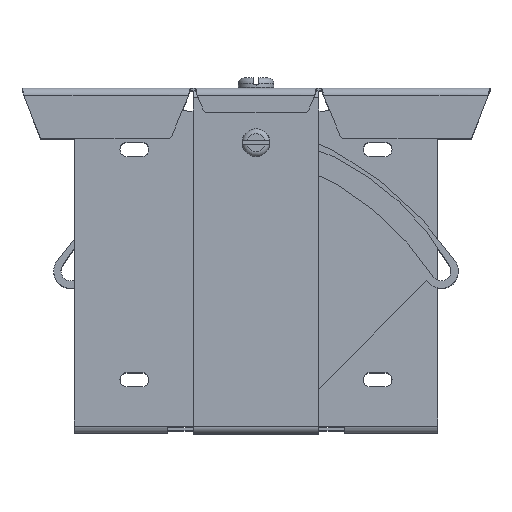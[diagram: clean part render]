
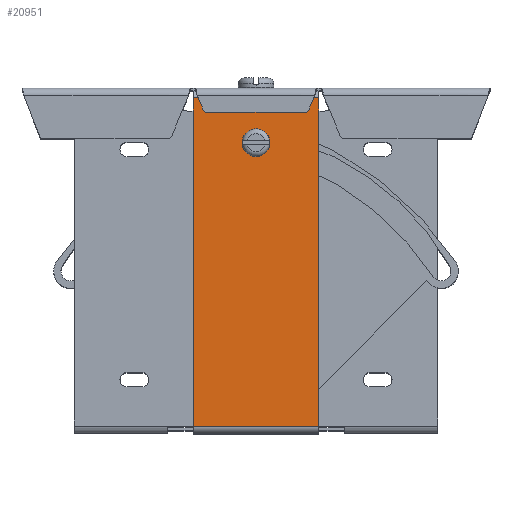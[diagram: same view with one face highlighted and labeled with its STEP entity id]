
A CAD part, top view. The second image highlights one B-rep face of the part: STEP entity #20951.
In plain terms, the highlighted planar face has unit normal (0, 0, 1).
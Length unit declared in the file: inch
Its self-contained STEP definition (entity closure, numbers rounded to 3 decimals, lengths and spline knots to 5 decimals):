
#1628 = CARTESIAN_POINT ( 'NONE',  ( 0.1405, 5.05103, 3.0232 ) ) ;
#1648 = CARTESIAN_POINT ( 'NONE',  ( -0.1405, 5.05103, 3.0232 ) ) ;
#1680 = DIRECTION ( 'NONE',  ( 1., 0., 0. ) ) ;
#1681 = DIRECTION ( 'NONE',  ( 0., 0., 1. ) ) ;
#1682 = CARTESIAN_POINT ( 'NONE',  ( 0., 5.05103, 3.0232 ) ) ;
#1683 = AXIS2_PLACEMENT_3D ( 'NONE', #1682, #1681, #1680 ) ;
#1684 = CIRCLE ( 'NONE', #1683, 0.1405 ) ;
#4602 = VERTEX_POINT ( 'NONE', #1648 ) ;
#5211 = VERTEX_POINT ( 'NONE', #1628 ) ;
#5231 = EDGE_CURVE ( 'NONE', #4602, #5211, #1684, .T. ) ;
#8338 = CARTESIAN_POINT ( 'NONE',  ( 1.092, 0.125, 3.0232 ) ) ;
#8434 = CARTESIAN_POINT ( 'NONE',  ( -1.092, 0.125, 3.0232 ) ) ;
#8514 = DIRECTION ( 'NONE',  ( -1., 0., 0. ) ) ;
#8515 = DIRECTION ( 'NONE',  ( 0., 0., -1. ) ) ;
#8516 = CARTESIAN_POINT ( 'NONE',  ( -1.092, 5.95358, 3.0232 ) ) ;
#8517 = AXIS2_PLACEMENT_3D ( 'NONE', #8516, #8515, #8514 ) ;
#8518 = PLANE ( 'NONE',  #8517 ) ;
#8519 = FACE_OUTER_BOUND ( 'NONE', #20955, .T. ) ;
#8520 = FACE_BOUND ( 'NONE', #20952, .T. ) ;
#8521 = DIRECTION ( 'NONE',  ( 0., -1., 0. ) ) ;
#8522 = VECTOR ( 'NONE', #8521, 39.37008 ) ;
#8523 = CARTESIAN_POINT ( 'NONE',  ( -1.092, 5.95358, 3.0232 ) ) ;
#8524 = LINE ( 'NONE', #8523, #8522 ) ;
#8525 = CARTESIAN_POINT ( 'NONE',  ( -1.092, 5.82858, 3.0232 ) ) ;
#8539 = DIRECTION ( 'NONE',  ( 1., 0., 0. ) ) ;
#8540 = DIRECTION ( 'NONE',  ( 0., 0., 1. ) ) ;
#8541 = CARTESIAN_POINT ( 'NONE',  ( 0., 5.05103, 3.0232 ) ) ;
#8542 = AXIS2_PLACEMENT_3D ( 'NONE', #8541, #8540, #8539 ) ;
#8543 = CIRCLE ( 'NONE', #8542, 0.1405 ) ;
#8555 = DIRECTION ( 'NONE',  ( -1., 0., 0. ) ) ;
#8556 = VECTOR ( 'NONE', #8555, 39.37008 ) ;
#8557 = CARTESIAN_POINT ( 'NONE',  ( -1.092, 0.125, 3.0232 ) ) ;
#8558 = LINE ( 'NONE', #8557, #8556 ) ;
#8606 = DIRECTION ( 'NONE',  ( 0., 1., 0. ) ) ;
#8607 = VECTOR ( 'NONE', #8606, 39.37008 ) ;
#8608 = CARTESIAN_POINT ( 'NONE',  ( 1.092, 5.95358, 3.0232 ) ) ;
#8609 = LINE ( 'NONE', #8608, #8607 ) ;
#8610 = CARTESIAN_POINT ( 'NONE',  ( 1.092, 5.82858, 3.0232 ) ) ;
#8611 = DIRECTION ( 'NONE',  ( -1., 0., 0. ) ) ;
#8612 = VECTOR ( 'NONE', #8611, 39.37008 ) ;
#8613 = CARTESIAN_POINT ( 'NONE',  ( 1.092, 5.82858, 3.0232 ) ) ;
#8614 = LINE ( 'NONE', #8613, #8612 ) ;
#20865 = VERTEX_POINT ( 'NONE', #8338 ) ;
#20925 = VERTEX_POINT ( 'NONE', #8434 ) ;
#20946 = VERTEX_POINT ( 'NONE', #8525 ) ;
#20950 = EDGE_CURVE ( 'NONE', #20946, #20925, #8524, .T. ) ;
#20951 = ADVANCED_FACE ( 'NONE', ( #8520, #8519 ), #8518, .F. ) ;
#20952 = EDGE_LOOP ( 'NONE', ( #20953, #20954 ) ) ;
#20953 = ORIENTED_EDGE ( 'NONE', *, *, #20980, .F. ) ;
#20954 = ORIENTED_EDGE ( 'NONE', *, *, #5231, .F. ) ;
#20955 = EDGE_LOOP ( 'NONE', ( #21011, #21014, #21015, #21016 ) ) ;
#20971 = EDGE_CURVE ( 'NONE', #20865, #20925, #8558, .T. ) ;
#20980 = EDGE_CURVE ( 'NONE', #5211, #4602, #8543, .T. ) ;
#21011 = ORIENTED_EDGE ( 'NONE', *, *, #21012, .T. ) ;
#21012 = EDGE_CURVE ( 'NONE', #21013, #20946, #8614, .T. ) ;
#21013 = VERTEX_POINT ( 'NONE', #8610 ) ;
#21014 = ORIENTED_EDGE ( 'NONE', *, *, #20950, .T. ) ;
#21015 = ORIENTED_EDGE ( 'NONE', *, *, #20971, .F. ) ;
#21016 = ORIENTED_EDGE ( 'NONE', *, *, #21017, .T. ) ;
#21017 = EDGE_CURVE ( 'NONE', #20865, #21013, #8609, .T. ) ;
